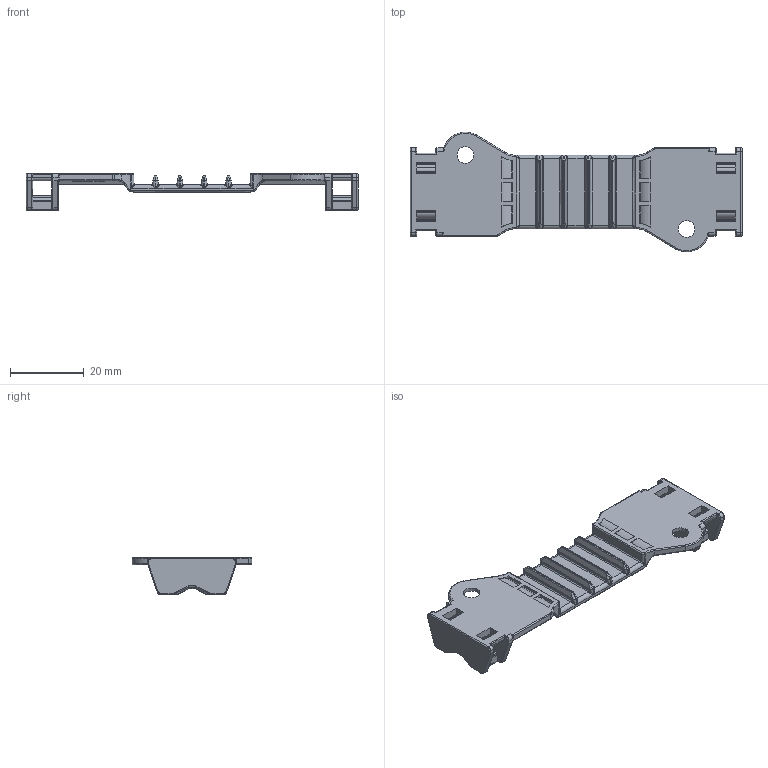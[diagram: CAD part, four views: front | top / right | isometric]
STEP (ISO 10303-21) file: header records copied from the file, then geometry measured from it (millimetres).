
FILE_DESCRIPTION(('Creo Elements/Direct Modeling STEP Export'),'2;1');
FILE_NAME('OL-G4-90.stp','2013-03-11T14:46:02',(''),(''),'Creo Elements/Direct Modeling STEP processor for AP214 (Solid Model)','Creo Elements/Direct Modeling 18.1B 29-Sep-2012 (C) Parametric Technology GmbH','');
FILE_SCHEMA(('AUTOMOTIVE_DESIGN { 1 0 10303 214 1 1 1 1 }'));
Products named in the file (2): OL-G4-90
Assembly tree (1 placements, depth 2):
  OL-G4-90
    OL-G4-90
Bounding box: 90 x 32.39 x 10 mm (x, y, z)
Volume: 5615.2 mm3; surface area: 6649.6 mm2
Topology: 1 solids, 1 shells, 854 faces, 2238 edges, 1366 vertices
Faces by surface type: plane 386, cylinder 260, bspline 118, torus 50, extrusion 16, cone 16, sphere 8
Entity records: 50365 total; most frequent: CARTESIAN_POINT 30869, ORIENTED_EDGE 4420, DIRECTION 3531, EDGE_CURVE 2210, VERTEX_POINT 1366, VECTOR 1347, LINE 1333, AXIS2_PLACEMENT_3D 1092
